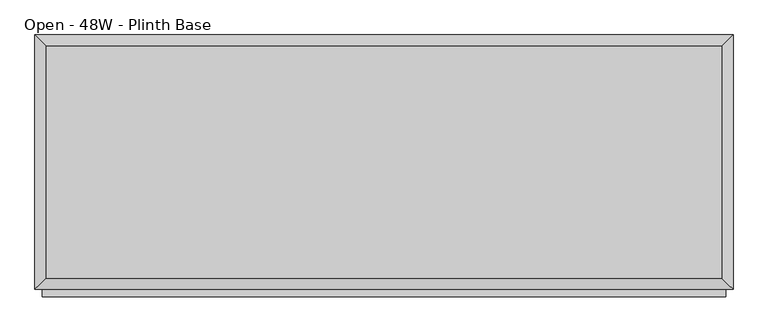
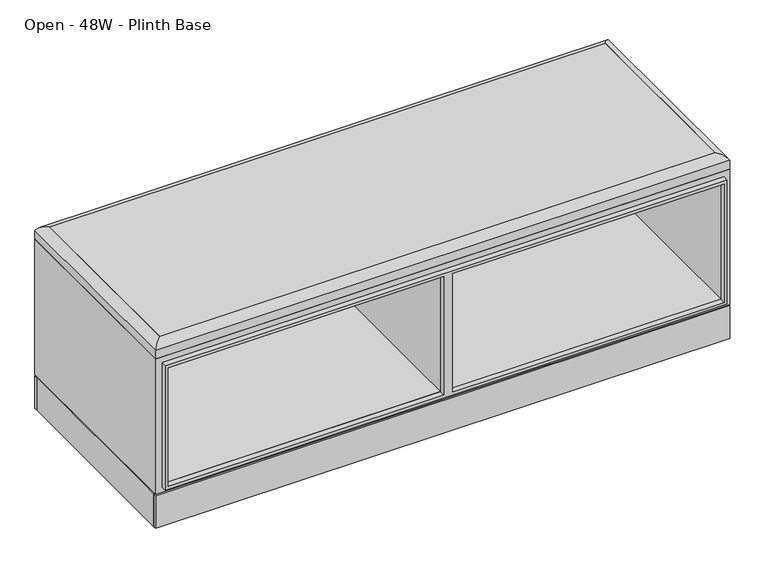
"""IFC4 building model written with IfcOpenShell, lengths in millimetres: furniture geometry, Steelcase Coalesse - Exponents - Seating - Bench : Open - 48W - Plinth Base."""

from ifc_helpers import new_model, si_unit, frame, origin, place, context, project, spatial, polyline, ellipse_curve, outline, extrude, faceted_brep, source, transform, mapped, element, save
from ifc_brep_helpers import plane_surface, cylinder_surface, advanced_brep


def open_48w_plinth_base_3666029f(model_context):
    return source(origin(), model_context, "Body", "SolidModel", [
        advanced_brep(
        [(0.0, 12.7, 406.6283237), (0.0, 12.7, 387.35), (1219.2, 12.7, 387.35), (1219.2, 12.7, 406.6283237), (1219.2, 457.2, 406.6283237), (1219.2, 457.2, 387.35), (0.0, 457.2, 387.35), (0.0, 457.2, 406.6283237), (1200.15, 31.75, 406.6283237), (1200.15, 438.15, 406.6283237), (19.05, 438.15, 406.6283237), (19.05, 31.75, 406.6283237), (1200.15, 438.15, 419.0696271), (1200.15, 31.75, 419.0696271), (19.05, 31.75, 419.0696271), (19.05, 438.15, 419.0696271)],
        [
            (0, 1),
            (1, 2),
            (2, 3),
            (3, 0),
            (4, 5),
            (5, 6),
            (6, 7),
            (7, 4),
            (8, 9),
            (9, 10),
            (10, 11),
            (11, 8),
            (0, 7),
            (6, 1),
            (5, 2),
            (4, 3),
            (12, 9),
            (8, 13),
            (13, 12),
            (13, 3, ellipse_curve(frame((1198.5973666, 33.3026334, 395.8870134), z_axis=(0.7071067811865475, 0.7071067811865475, 0.0), x_axis=(-0.7071067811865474, 0.7071067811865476, 0.0)), 32.8586138, 23.2345486)),
            (4, 12, ellipse_curve(frame((1198.5973666, 436.5973666, 395.8870134), z_axis=(0.7071067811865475, -0.7071067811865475, 0.0), x_axis=(0.7071067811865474, 0.7071067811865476, 0.0)), 32.8586138, 23.2345486)),
            (11, 14),
            (14, 13),
            (14, 0, ellipse_curve(frame((20.6026334, 33.3026334, 395.8870134), z_axis=(0.7071067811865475, -0.7071067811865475, 0.0), x_axis=(0.7071067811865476, 0.7071067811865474, 0.0)), 32.8586138, 23.2345486)),
            (10, 15),
            (15, 14),
            (15, 7, ellipse_curve(frame((20.6026334, 436.5973666, 395.8870134), z_axis=(-0.7071067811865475, -0.7071067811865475, 0.0), x_axis=(0.7071067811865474, -0.7071067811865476, 0.0)), 32.8586138, 23.2345486)),
            (12, 15),
        ],
        [
            plane_surface(frame((0.0, 12.7, 406.6283237), z_axis=(0.0, -1.0, 0.0), x_axis=(-1.0, 0.0, 0.0))),
            plane_surface(frame((0.0, 457.2, 406.6283237), z_axis=(0.0, 1.0, 0.0), x_axis=(1.0, 0.0, 0.0))),
            plane_surface(frame((1219.2, 12.7, 406.6283237), z_axis=(0.0, 0.0, 1.0), x_axis=(0.0, 1.0, 0.0))),
            plane_surface(frame((0.0, 12.7, 406.6283237), z_axis=(-1.0, 0.0, 1.9588398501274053e-12), x_axis=(0.0, 1.0, 0.0))),
            plane_surface(frame((0.0, 12.7, 387.35), z_axis=(0.0, 0.0, -1.0), x_axis=(0.0, 1.0, 0.0))),
            plane_surface(frame((1219.2, 12.7, 387.35), z_axis=(1.0, 0.0, 0.0), x_axis=(0.0, 1.0, 0.0))),
            plane_surface(frame((1200.15, 438.15, 406.6284102), z_axis=(-1.0, 0.0, 0.0), x_axis=(0.0, -1.0, 0.0))),
            cylinder_surface(frame((1198.5973666, 457.2, 395.8870134), z_axis=(0.0, 1.0, 0.0), x_axis=(1.0, 0.0, 0.0)), 23.2345486),
            plane_surface(frame((1200.15, 31.75, 406.6284102), z_axis=(0.0, 1.0, 0.0), x_axis=(-1.0, 0.0, 0.0))),
            cylinder_surface(frame((1219.2, 33.3026334, 395.8870134), z_axis=(1.0, 0.0, 0.0), x_axis=(0.0, -1.0, 0.0)), 23.2345486),
            plane_surface(frame((19.05, 31.75, 406.6284102), z_axis=(1.0, 0.0, 0.0), x_axis=(0.0, 1.0, 0.0))),
            cylinder_surface(frame((20.6026334, 12.7, 395.8870134), z_axis=(0.0, -1.0, 0.0), x_axis=(-1.0, 0.0, 0.0)), 23.2345486),
            plane_surface(frame((19.05, 438.15, 406.6284102), z_axis=(0.0, -1.0, 0.0), x_axis=(1.0, 0.0, 0.0))),
            cylinder_surface(frame((0.0, 436.5973666, 395.8870134), z_axis=(-1.0, 0.0, 0.0), x_axis=(0.0, 1.0, 0.0)), 23.2345486),
        ],
        [
            (0, [[1, 2, 3, 4]]),
            (1, [[5, 6, 7, 8]]),
            (2, [[9, 10, 11, 12]]),
            (3, [[-1, 13, -7, 14]]),
            (4, [[-2, -14, -6, 15]]),
            (5, [[-3, -15, -5, 16]]),
            (6, [[17, -9, 18, 19]]),
            (7, [[-19, 20, -16, 21]]),
            (8, [[-18, -12, 22, 23]]),
            (9, [[-20, -23, 24, -4]]),
            (10, [[-22, -11, 25, 26]]),
            (11, [[-24, -26, 27, -13]]),
            (12, [[-17, 28, -25, -10]]),
            (13, [[-21, -8, -27, -28]]),
        ],
    ),
        faceted_brep([(1219.2, 12.7, 387.35), (0.0, 12.7, 387.35), (0.0, 12.7, 82.55), (1219.2, 12.7, 82.55), (19.05, 12.7, 368.0968), (604.774, 12.7, 368.0968), (604.774, 12.7, 101.8032), (19.05, 12.7, 101.8032), (623.824, 12.7, 368.0968), (1200.15, 12.7, 368.0968), (1200.15, 12.7, 101.8032), (623.824, 12.7, 101.8032), (1219.2, 457.2, 387.35), (1219.2, 457.2, 82.55), (0.0, 457.2, 82.55), (0.0, 457.2, 387.35), (604.774, 438.15, 368.0968), (19.05, 438.15, 368.0968), (19.05, 438.15, 101.8032), (604.774, 438.15, 101.8032), (1200.15, 438.15, 368.0968), (623.824, 438.15, 368.0968), (623.824, 438.15, 101.8032), (1200.15, 438.15, 101.8032)], [[[0, 1, 2, 3], [4, 5, 6, 7], [8, 9, 10, 11]], [[12, 13, 14, 15]], [[1, 0, 12, 15]], [[2, 1, 15, 14]], [[3, 2, 14, 13]], [[0, 3, 13, 12]], [[16, 17, 18, 19]], [[20, 21, 22, 23]], [[17, 16, 5, 4]], [[18, 17, 4, 7]], [[19, 18, 7, 6]], [[16, 19, 6, 5]], [[21, 20, 9, 8]], [[22, 21, 8, 11]], [[23, 22, 11, 10]], [[20, 23, 10, 9]]]),
        extrude(outline(polyline([(1219.2, 457.2), (1219.2, 450.85), (0.0, 450.85), (0.0, 457.2), (1219.2, 457.2)])), frame((0.0, 0.0, 6.35), z_axis=(0.0, 0.0, 1.0), x_axis=(1.0, 0.0, 0.0)), (0.0, 0.0, 1.0), 73.4568),
        extrude(outline(polyline([(6.31225, 19.05), (0.0, 19.05), (0.0, 450.85), (6.31225, 450.85), (6.31225, 19.05)])), frame((0.0, 0.0, 6.35), z_axis=(0.0, 0.0, 1.0), x_axis=(1.0, 0.0, 0.0)), (0.0, 0.0, 1.0), 73.4568),
        extrude(outline(polyline([(1219.2, 19.05), (1219.2, 12.7), (0.0, 12.7), (0.0, 19.05), (1219.2, 19.05)])), frame((0.0, 0.0, 6.35), z_axis=(0.0, 0.0, 1.0), x_axis=(1.0, 0.0, 0.0)), (0.0, 0.0, 1.0), 73.4568),
        extrude(outline(polyline([(1219.2, 19.05), (1212.81225, 19.05), (1212.81225, 450.85), (1219.2, 450.85), (1219.2, 19.05)])), frame((0.0, 0.0, 6.35), z_axis=(0.0, 0.0, 1.0), x_axis=(1.0, 0.0, 0.0)), (0.0, 0.0, 1.0), 73.4568),
        extrude(outline(polyline([(1214.33625, 452.374), (1214.33625, 17.526), (4.78825, 17.526), (4.78825, 452.374), (1214.33625, 452.374)]), holes=[polyline([(6.31225, 19.05), (1212.81225, 19.05), (1212.81225, 450.85), (6.31225, 450.85), (6.31225, 19.05)])]), frame((0.0, 0.0, 79.8068), z_axis=(0.0, 0.0, 1.0), x_axis=(1.0, 0.0, 0.0)), (0.0, 0.0, 1.0), 2.7432),
        extrude(outline(polyline([(1200.15, 31.75), (19.05, 31.75), (19.05, 438.15), (1200.15, 438.15), (1200.15, 31.75)])), frame((0.0, 0.0, 406.6283237), z_axis=(0.0, 0.0, 1.0), x_axis=(1.0, 0.0, 0.0)), (0.0, 0.0, 1.0), 12.4413034),
        extrude(outline(polyline([(374.4468, 1206.2206), (374.4468, 12.7), (95.4532, 12.7), (95.4532, 1206.2206), (374.4468, 1206.2206)]), holes=[polyline([(368.0968, 623.824), (368.0968, 1200.15), (101.8032, 1200.15), (101.8032, 623.824), (368.0968, 623.824)]), polyline([(368.0968, 604.774), (101.8032, 604.774), (101.8032, 19.05), (368.0968, 19.05), (368.0968, 604.774)])]), frame((0.0, 0.0, 0.0), z_axis=(0.0, 1.0, 0.0), x_axis=(0.0, 0.0, 1.0)), (0.0, 0.0, 1.0), 12.7),
    ])


if __name__ == "__main__":
    model = new_model("IFC4")
    model_context = context("Model", 3, world=origin())
    ifc_project = project(units=[si_unit("LENGTHUNIT", "METRE", prefix="MILLI")], contexts=[model_context])
    site = spatial("IfcSite", under=ifc_project)
    building = spatial("IfcBuilding", under=site)
    placement = place(None, origin())
    open_48w_plinth_base_shape = open_48w_plinth_base_3666029f(model_context)
    element("IfcFurniture", 1, ObjectType="Steelcase Coalesse - Exponents - Seating - Bench : Open - 48W - Plinth Base", at=placement, inside=building, context=model_context, shape_type="MappedRepresentation", body=[
        mapped(open_48w_plinth_base_shape, transform((0.0, 0.0, 0.0), x_axis=(1.0, 0.0, 0.0), y_axis=(0.0, 1.0, 0.0), z_axis=(0.0, 0.0, 1.0))),
    ])
    save(model, "model.ifc")
